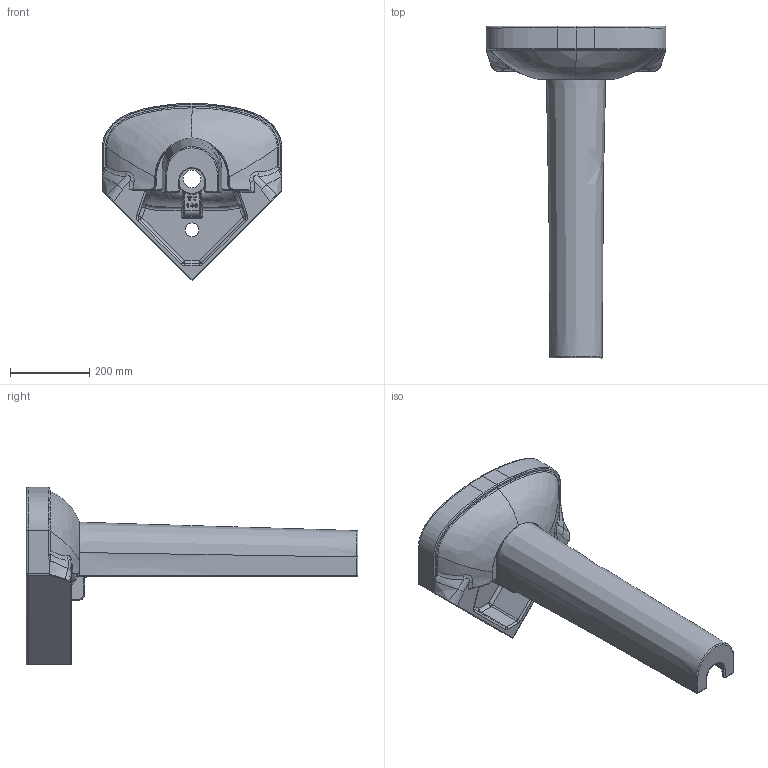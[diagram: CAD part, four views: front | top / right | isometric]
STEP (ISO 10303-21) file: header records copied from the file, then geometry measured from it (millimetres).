
FILE_DESCRIPTION (( 'STEP AP203' ), '1' );
FILE_NAME ('VT253.VT145.STEP', '2022-04-18T06:57:01', ( '' ), ( '' ), 'SwSTEP 2.0', 'SolidWorks 2021', '' );
FILE_SCHEMA (( 'CONFIG_CONTROL_DESIGN' ));
Length unit declared in the file: millimetre
Products named in the file (1): VT253.VT145
Bounding box: 455 x 840 x 448.92 mm (x, y, z)
Volume: 11757743.6 mm3; surface area: 1027589 mm2
Topology: 5 solids, 7 shells, 812 faces, 1933 edges, 1097 vertices
Faces by surface type: bspline 401, cylinder 190, torus 100, plane 97, sphere 22, cone 2
Entity records: 97016 total; most frequent: CARTESIAN_POINT 81329, ORIENTED_EDGE 3772, DIRECTION 2573, EDGE_CURVE 1886, VERTEX_POINT 1096, AXIS2_PLACEMENT_3D 1084, EDGE_LOOP 826, ADVANCED_FACE 812
